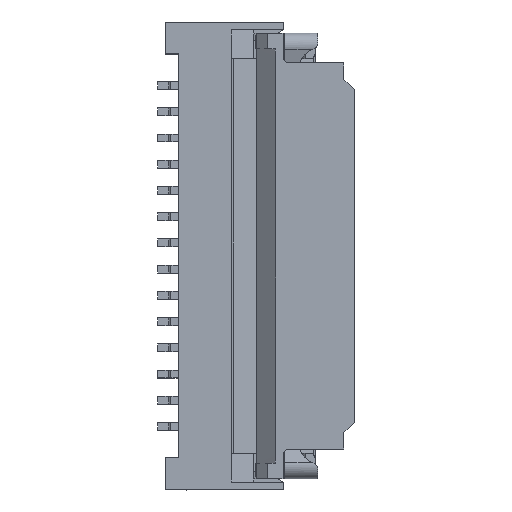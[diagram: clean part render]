
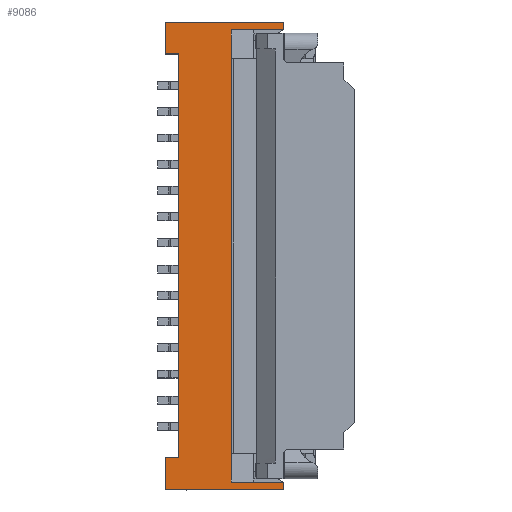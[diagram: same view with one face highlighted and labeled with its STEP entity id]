
A CAD part, top view. The second image highlights one B-rep face of the part: STEP entity #9086.
In plain terms, the highlighted planar face has unit normal (0, 0, 1).
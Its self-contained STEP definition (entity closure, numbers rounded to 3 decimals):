
#131 = CARTESIAN_POINT ( 'NONE',  ( 1.132, -7.161, -0.021 ) ) ;
#183 = CARTESIAN_POINT ( 'NONE',  ( 0.132, 1.459, -0.021 ) ) ;
#221 = ORIENTED_EDGE ( 'NONE', *, *, #9702, .F. ) ;
#240 = CARTESIAN_POINT ( 'NONE',  ( 0.132, -2.161, -0.021 ) ) ;
#245 = CARTESIAN_POINT ( 'NONE',  ( -1.118, 1.609, -0.021 ) ) ;
#277 = CARTESIAN_POINT ( 'NONE',  ( -1.118, 0.999, -0.021 ) ) ;
#294 = VERTEX_POINT ( 'NONE', #277 ) ;
#324 = VERTEX_POINT ( 'NONE', #2697 ) ;
#380 = EDGE_CURVE ( 'NONE', #12822, #12140, #9799, .T. ) ;
#414 = DIRECTION ( 'NONE',  ( 1., 0., 0. ) ) ;
#545 = CARTESIAN_POINT ( 'NONE',  ( 0., 5., -0.021 ) ) ;
#596 = ORIENTED_EDGE ( 'NONE', *, *, #6218, .T. ) ;
#670 = LINE ( 'NONE', #14624, #1935 ) ;
#824 = CARTESIAN_POINT ( 'NONE',  ( 1.132, 1.459, -0.021 ) ) ;
#969 = ORIENTED_EDGE ( 'NONE', *, *, #12424, .T. ) ;
#1309 = DIRECTION ( 'NONE',  ( 0., -1., 0. ) ) ;
#1320 = ORIENTED_EDGE ( 'NONE', *, *, #11114, .T. ) ;
#1502 = CARTESIAN_POINT ( 'NONE',  ( -0.868, -6.701, -0.021 ) ) ;
#1649 = ORIENTED_EDGE ( 'NONE', *, *, #380, .T. ) ;
#1731 = VECTOR ( 'NONE', #8073, 1000. ) ;
#1805 = CARTESIAN_POINT ( 'NONE',  ( 1.132, 1.459, -0.021 ) ) ;
#1872 = EDGE_CURVE ( 'NONE', #6510, #8665, #14707, .T. ) ;
#1935 = VECTOR ( 'NONE', #14466, 1000. ) ;
#1959 = DIRECTION ( 'NONE',  ( 0., -1., 0. ) ) ;
#2137 = CARTESIAN_POINT ( 'NONE',  ( 1.132, 1.609, -0.021 ) ) ;
#2206 = CARTESIAN_POINT ( 'NONE',  ( 0.132, -7.161, -0.021 ) ) ;
#2382 = EDGE_CURVE ( 'NONE', #10760, #11619, #6868, .T. ) ;
#2697 = CARTESIAN_POINT ( 'NONE',  ( -1.118, -7.311, -0.021 ) ) ;
#2733 = CARTESIAN_POINT ( 'NONE',  ( -1.118, 1.609, -0.021 ) ) ;
#2761 = CARTESIAN_POINT ( 'NONE',  ( 0.132, 1.459, -0.021 ) ) ;
#2796 = EDGE_CURVE ( 'NONE', #6238, #3716, #6700, .T. ) ;
#3135 = ORIENTED_EDGE ( 'NONE', *, *, #11480, .F. ) ;
#3267 = EDGE_LOOP ( 'NONE', ( #14607, #11628, #6145, #7353, #9491, #221, #3135, #1649, #1320, #13496, #969, #3323, #7593, #596 ) ) ;
#3323 = ORIENTED_EDGE ( 'NONE', *, *, #12404, .T. ) ;
#3505 = VECTOR ( 'NONE', #12120, 1000. ) ;
#3716 = VERTEX_POINT ( 'NONE', #8964 ) ;
#4139 = VECTOR ( 'NONE', #7529, 1000. ) ;
#4393 = VECTOR ( 'NONE', #9854, 1000. ) ;
#4513 = VECTOR ( 'NONE', #1309, 1000. ) ;
#4617 = CARTESIAN_POINT ( 'NONE',  ( 0.132, -6.611, -0.021 ) ) ;
#4849 = DIRECTION ( 'NONE',  ( 0., 1., 0. ) ) ;
#4861 = LINE ( 'NONE', #183, #4513 ) ;
#5168 = CARTESIAN_POINT ( 'NONE',  ( 0.132, -7.161, -0.021 ) ) ;
#5242 = CARTESIAN_POINT ( 'NONE',  ( -0.868, 0.999, -0.021 ) ) ;
#5505 = CARTESIAN_POINT ( 'NONE',  ( -1.118, 0.999, -0.021 ) ) ;
#6145 = ORIENTED_EDGE ( 'NONE', *, *, #1872, .F. ) ;
#6218 = EDGE_CURVE ( 'NONE', #11619, #6238, #13161, .T. ) ;
#6238 = VERTEX_POINT ( 'NONE', #4617 ) ;
#6243 = CARTESIAN_POINT ( 'NONE',  ( -1.118, -6.701, -0.021 ) ) ;
#6358 = CARTESIAN_POINT ( 'NONE',  ( -0.868, 0.999, -0.021 ) ) ;
#6476 = CARTESIAN_POINT ( 'NONE',  ( -0.868, 18.999, -0.021 ) ) ;
#6506 = LINE ( 'NONE', #12309, #10396 ) ;
#6510 = VERTEX_POINT ( 'NONE', #1805 ) ;
#6581 = VECTOR ( 'NONE', #4849, 1000. ) ;
#6700 = LINE ( 'NONE', #240, #6581 ) ;
#6784 = LINE ( 'NONE', #5505, #11768 ) ;
#6808 = VECTOR ( 'NONE', #9000, 1000. ) ;
#6868 = LINE ( 'NONE', #131, #1731 ) ;
#7051 = VECTOR ( 'NONE', #13065, 1000. ) ;
#7201 = CARTESIAN_POINT ( 'NONE',  ( 1.132, -7.161, -0.021 ) ) ;
#7353 = ORIENTED_EDGE ( 'NONE', *, *, #11220, .F. ) ;
#7370 = LINE ( 'NONE', #7440, #4393 ) ;
#7440 = CARTESIAN_POINT ( 'NONE',  ( 1.132, -7.311, -0.021 ) ) ;
#7529 = DIRECTION ( 'NONE',  ( 0., -1., 0. ) ) ;
#7593 = ORIENTED_EDGE ( 'NONE', *, *, #2382, .T. ) ;
#7990 = DIRECTION ( 'NONE',  ( 0., 1., 0. ) ) ;
#8073 = DIRECTION ( 'NONE',  ( -1., 0., 0. ) ) ;
#8095 = CARTESIAN_POINT ( 'NONE',  ( -0.868, -6.701, -0.021 ) ) ;
#8423 = DIRECTION ( 'NONE',  ( 0., -1., 0. ) ) ;
#8665 = VERTEX_POINT ( 'NONE', #2761 ) ;
#8698 = VERTEX_POINT ( 'NONE', #6243 ) ;
#8796 = DIRECTION ( 'NONE',  ( -1., 0., 0. ) ) ;
#8964 = CARTESIAN_POINT ( 'NONE',  ( 0.132, 0.909, -0.021 ) ) ;
#8994 = EDGE_CURVE ( 'NONE', #8665, #3716, #4861, .T. ) ;
#9000 = DIRECTION ( 'NONE',  ( -1., 0., 0. ) ) ;
#9086 = ADVANCED_FACE ( 'NONE', ( #14355 ), #12936, .F. ) ;
#9491 = ORIENTED_EDGE ( 'NONE', *, *, #12778, .F. ) ;
#9702 = EDGE_CURVE ( 'NONE', #294, #13838, #6784, .T. ) ;
#9799 = LINE ( 'NONE', #6476, #4139 ) ;
#9854 = DIRECTION ( 'NONE',  ( 0., 1., 0. ) ) ;
#10396 = VECTOR ( 'NONE', #1959, 1000. ) ;
#10760 = VERTEX_POINT ( 'NONE', #7201 ) ;
#10836 = LINE ( 'NONE', #14505, #12588 ) ;
#10848 = EDGE_CURVE ( 'NONE', #8698, #324, #6506, .T. ) ;
#11114 = EDGE_CURVE ( 'NONE', #12140, #8698, #14031, .T. ) ;
#11220 = EDGE_CURVE ( 'NONE', #12462, #6510, #670, .T. ) ;
#11480 = EDGE_CURVE ( 'NONE', #12822, #294, #12112, .T. ) ;
#11619 = VERTEX_POINT ( 'NONE', #2206 ) ;
#11628 = ORIENTED_EDGE ( 'NONE', *, *, #8994, .F. ) ;
#11768 = VECTOR ( 'NONE', #7990, 1000. ) ;
#11850 = VECTOR ( 'NONE', #8796, 1000. ) ;
#12111 = CARTESIAN_POINT ( 'NONE',  ( 1.132, -7.311, -0.021 ) ) ;
#12112 = LINE ( 'NONE', #5242, #11850 ) ;
#12120 = DIRECTION ( 'NONE',  ( 0., 1., 0. ) ) ;
#12140 = VERTEX_POINT ( 'NONE', #8095 ) ;
#12301 = VERTEX_POINT ( 'NONE', #12111 ) ;
#12309 = CARTESIAN_POINT ( 'NONE',  ( -1.118, -6.701, -0.021 ) ) ;
#12404 = EDGE_CURVE ( 'NONE', #12301, #10760, #7370, .T. ) ;
#12424 = EDGE_CURVE ( 'NONE', #324, #12301, #10836, .T. ) ;
#12462 = VERTEX_POINT ( 'NONE', #2137 ) ;
#12588 = VECTOR ( 'NONE', #414, 1000. ) ;
#12778 = EDGE_CURVE ( 'NONE', #13838, #12462, #14200, .T. ) ;
#12822 = VERTEX_POINT ( 'NONE', #6358 ) ;
#12936 = PLANE ( 'NONE',  #14140 ) ;
#13065 = DIRECTION ( 'NONE',  ( 1., 0., 0. ) ) ;
#13121 = DIRECTION ( 'NONE',  ( -1., 0., 0. ) ) ;
#13161 = LINE ( 'NONE', #5168, #3505 ) ;
#13496 = ORIENTED_EDGE ( 'NONE', *, *, #10848, .T. ) ;
#13838 = VERTEX_POINT ( 'NONE', #245 ) ;
#14031 = LINE ( 'NONE', #1502, #14710 ) ;
#14140 = AXIS2_PLACEMENT_3D ( 'NONE', #545, #14141, #8423 ) ;
#14141 = DIRECTION ( 'NONE',  ( 0., 0., -1. ) ) ;
#14200 = LINE ( 'NONE', #2733, #7051 ) ;
#14355 = FACE_OUTER_BOUND ( 'NONE', #3267, .T. ) ;
#14466 = DIRECTION ( 'NONE',  ( 0., -1., 0. ) ) ;
#14505 = CARTESIAN_POINT ( 'NONE',  ( -1.118, -7.311, -0.021 ) ) ;
#14607 = ORIENTED_EDGE ( 'NONE', *, *, #2796, .T. ) ;
#14624 = CARTESIAN_POINT ( 'NONE',  ( 1.132, 1.609, -0.021 ) ) ;
#14707 = LINE ( 'NONE', #824, #6808 ) ;
#14710 = VECTOR ( 'NONE', #13121, 1000. ) ;
